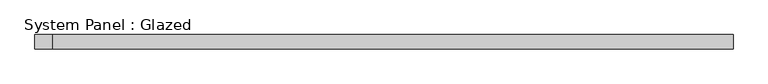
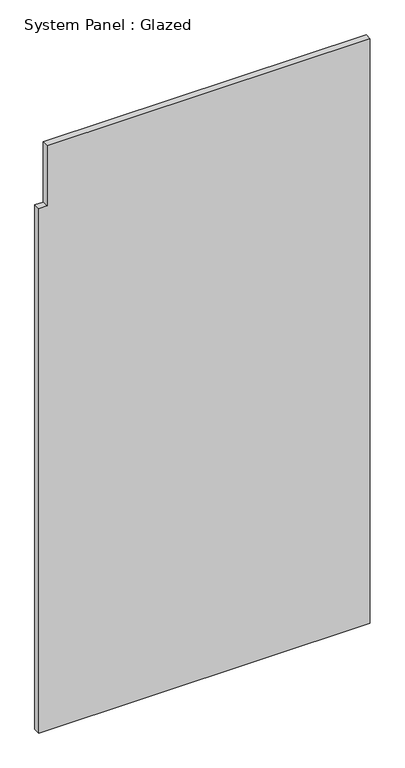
"""IFC4 building model written with IfcOpenShell, lengths in millimetres: plate geometry, System Panel : Glazed."""

from ifc_helpers import new_model, si_unit, frame, origin, place, context, project, spatial, polyline, outline, extrude, source, transform, mapped, element, save


def system_panel_glazed_ae0ed77e(model_context):
    return source(origin(), model_context, "Body", "SweptSolid", [
        extrude(outline(polyline([(0.0, -628.65), (0.0, 628.65), (2101.85, 628.65), (2343.15, 628.65), (2343.15, -596.9), (2101.85, -596.9), (2101.85, -628.65), (0.0, -628.65)])), frame((0.0, -44.45, 0.0), z_axis=(0.0, 1.0, 0.0), x_axis=(0.0, 0.0, 1.0)), (0.0, 0.0, 1.0), 25.4),
    ])


if __name__ == "__main__":
    model = new_model("IFC4")
    model_context = context("Model", 3, world=origin())
    ifc_project = project(units=[si_unit("LENGTHUNIT", "METRE", prefix="MILLI")], contexts=[model_context])
    site = spatial("IfcSite", under=ifc_project)
    building = spatial("IfcBuilding", under=site)
    placement = place(None, origin())
    system_panel_glazed_shape = system_panel_glazed_ae0ed77e(model_context)
    element("IfcPlate", 1, ObjectType="System Panel : Glazed", at=placement, inside=building, context=model_context, shape_type="MappedRepresentation", body=[
        mapped(system_panel_glazed_shape, transform((0.0, 0.0, 0.0), x_axis=(1.0, 0.0, 0.0), y_axis=(0.0, 1.0, 0.0), z_axis=(0.0, 0.0, 1.0))),
    ])
    save(model, "model.ifc")
